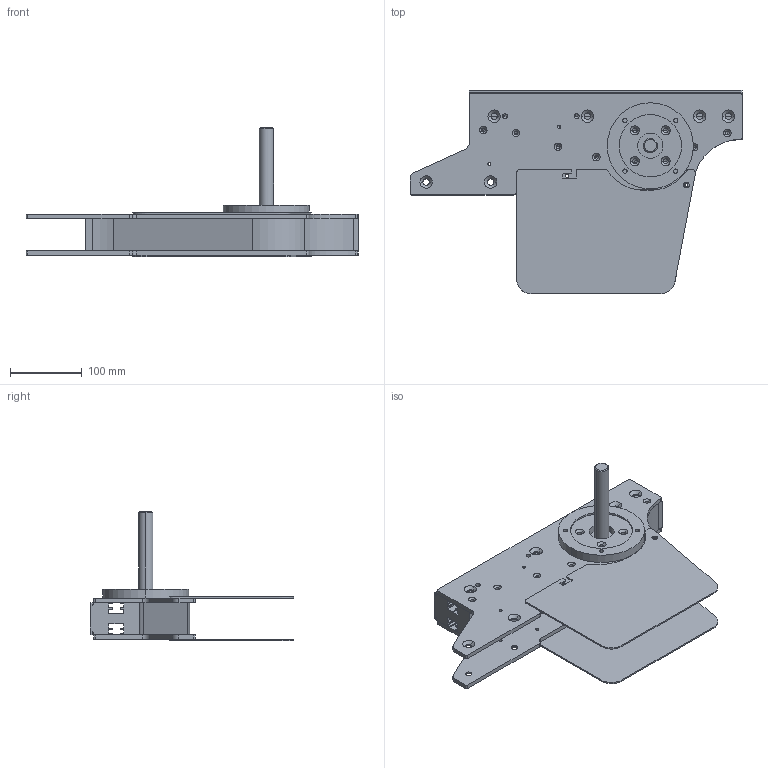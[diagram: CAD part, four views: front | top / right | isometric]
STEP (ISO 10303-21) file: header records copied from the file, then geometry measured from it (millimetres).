
FILE_DESCRIPTION (( 'STEP AP214' ), '1' );
FILE_NAME ('FKID DD 0R.step', '2017-04-07T11:07:11', ( '' ), ( '' ), 'SwSTEP 2.0', 'SolidWorks 2016', '' );
FILE_SCHEMA (( 'AUTOMOTIVE_DESIGN' ));
Length unit declared in the file: millimetre
Products named in the file (1): FKID DD 0R
Bounding box: 462.8 x 283.41 x 180.2 mm (x, y, z)
Volume: 2413096.5 mm3; surface area: 588440.5 mm2
Topology: 7 solids, 7 shells, 501 faces, 1328 edges, 813 vertices
Faces by surface type: cylinder 252, cone 132, plane 117
Entity records: 15942 total; most frequent: DIRECTION 2852, CARTESIAN_POINT 2613, ORIENTED_EDGE 2548, EDGE_CURVE 1274, AXIS2_PLACEMENT_3D 1084, VERTEX_POINT 813, LINE 684, VECTOR 684
